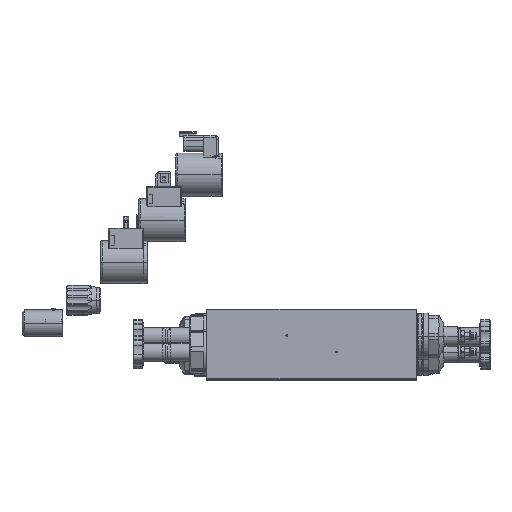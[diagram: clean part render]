
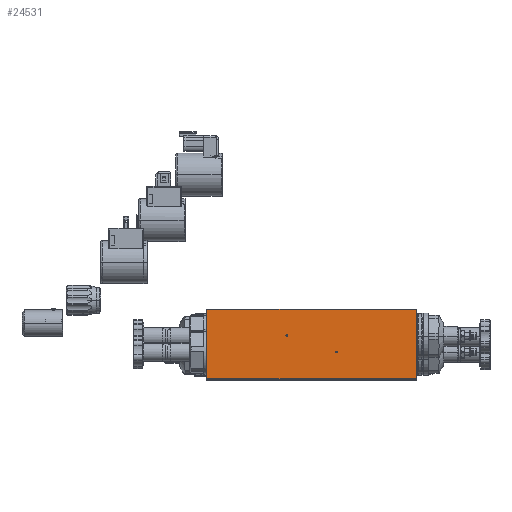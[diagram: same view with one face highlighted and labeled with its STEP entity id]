
A CAD part, top view. The second image highlights one B-rep face of the part: STEP entity #24531.
In plain terms, the highlighted planar face has unit normal (0, 0, 1).
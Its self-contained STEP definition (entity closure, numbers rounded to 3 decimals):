
#1573 = VERTEX_POINT ( 'NONE', #16084 ) ;
#2394 = EDGE_CURVE ( 'NONE', #1573, #15783, #110479, .T. ) ;
#2556 = AXIS2_PLACEMENT_3D ( 'NONE', #80270, #110546, #79828 ) ;
#3223 = CIRCLE ( 'NONE', #18579, 0.7 ) ;
#3273 = ORIENTED_EDGE ( 'NONE', *, *, #101126, .F. ) ;
#3844 = CARTESIAN_POINT ( 'NONE',  ( 180., -29.75, 30. ) ) ;
#4399 = AXIS2_PLACEMENT_3D ( 'NONE', #39276, #110799, #49566 ) ;
#5152 = CARTESIAN_POINT ( 'NONE',  ( 0., -29.75, 30. ) ) ;
#6250 = VECTOR ( 'NONE', #36355, 1000. ) ;
#6425 = CARTESIAN_POINT ( 'NONE',  ( 68.5, 7.25, 30. ) ) ;
#9473 = DIRECTION ( 'NONE',  ( 0., -1., 0. ) ) ;
#10351 = EDGE_CURVE ( 'NONE', #52988, #106946, #78535, .T. ) ;
#11476 = ORIENTED_EDGE ( 'NONE', *, *, #96370, .T. ) ;
#15783 = VERTEX_POINT ( 'NONE', #5152 ) ;
#16084 = CARTESIAN_POINT ( 'NONE',  ( 0., 29.75, 30. ) ) ;
#16787 = DIRECTION ( 'NONE',  ( 1., 0., 0. ) ) ;
#18579 = AXIS2_PLACEMENT_3D ( 'NONE', #76088, #126842, #24924 ) ;
#19033 = CARTESIAN_POINT ( 'NONE',  ( 180., -29.75, 30. ) ) ;
#22966 = FACE_OUTER_BOUND ( 'NONE', #43433, .T. ) ;
#23547 = CARTESIAN_POINT ( 'NONE',  ( 112.2, -6.75, 30. ) ) ;
#24531 = ADVANCED_FACE ( 'NONE', ( #75911, #45409, #22966 ), #44884, .F. ) ;
#24660 = CARTESIAN_POINT ( 'NONE',  ( 111.5, -6.75, 30. ) ) ;
#24924 = DIRECTION ( 'NONE',  ( 1., 0., 0. ) ) ;
#25726 = EDGE_CURVE ( 'NONE', #118275, #101423, #74029, .T. ) ;
#31701 = ORIENTED_EDGE ( 'NONE', *, *, #2394, .T. ) ;
#33511 = LINE ( 'NONE', #77230, #6250 ) ;
#36355 = DIRECTION ( 'NONE',  ( -1., 0., 0. ) ) ;
#38622 = CARTESIAN_POINT ( 'NONE',  ( 67.8, 7.25, 30. ) ) ;
#39276 = CARTESIAN_POINT ( 'NONE',  ( 111.5, -6.75, 30. ) ) ;
#43433 = EDGE_LOOP ( 'NONE', ( #31701, #67622, #84577, #11476 ) ) ;
#44884 = PLANE ( 'NONE',  #2556 ) ;
#45409 = FACE_BOUND ( 'NONE', #71382, .T. ) ;
#48415 = AXIS2_PLACEMENT_3D ( 'NONE', #24660, #64181, #69068 ) ;
#48818 = EDGE_CURVE ( 'NONE', #117335, #121098, #3223, .T. ) ;
#49566 = DIRECTION ( 'NONE',  ( 1., 0., 0. ) ) ;
#52988 = VERTEX_POINT ( 'NONE', #88981 ) ;
#54593 = VECTOR ( 'NONE', #9473, 1000. ) ;
#64181 = DIRECTION ( 'NONE',  ( 0., 0., 1. ) ) ;
#65307 = AXIS2_PLACEMENT_3D ( 'NONE', #6425, #78233, #16787 ) ;
#65354 = CIRCLE ( 'NONE', #4399, 0.7 ) ;
#67622 = ORIENTED_EDGE ( 'NONE', *, *, #106593, .F. ) ;
#69068 = DIRECTION ( 'NONE',  ( 1., 0., 0. ) ) ;
#71382 = EDGE_LOOP ( 'NONE', ( #84828, #115323 ) ) ;
#74029 = CIRCLE ( 'NONE', #48415, 0.7 ) ;
#75911 = FACE_BOUND ( 'NONE', #108952, .T. ) ;
#76088 = CARTESIAN_POINT ( 'NONE',  ( 68.5, 7.25, 30. ) ) ;
#77230 = CARTESIAN_POINT ( 'NONE',  ( 180., 29.75, 30. ) ) ;
#78233 = DIRECTION ( 'NONE',  ( 0., 0., 1. ) ) ;
#78535 = LINE ( 'NONE', #99131, #84920 ) ;
#79828 = DIRECTION ( 'NONE',  ( -1., 0., 0. ) ) ;
#80270 = CARTESIAN_POINT ( 'NONE',  ( 180., -29.75, 30. ) ) ;
#84577 = ORIENTED_EDGE ( 'NONE', *, *, #10351, .F. ) ;
#84828 = ORIENTED_EDGE ( 'NONE', *, *, #25726, .F. ) ;
#84920 = VECTOR ( 'NONE', #99399, 1000. ) ;
#84942 = ORIENTED_EDGE ( 'NONE', *, *, #48818, .F. ) ;
#86648 = CARTESIAN_POINT ( 'NONE',  ( 69.2, 7.25, 30. ) ) ;
#88981 = CARTESIAN_POINT ( 'NONE',  ( 180., 29.75, 30. ) ) ;
#89007 = VECTOR ( 'NONE', #95722, 1000. ) ;
#95722 = DIRECTION ( 'NONE',  ( -1., 0., 0. ) ) ;
#96370 = EDGE_CURVE ( 'NONE', #52988, #1573, #33511, .T. ) ;
#99131 = CARTESIAN_POINT ( 'NONE',  ( 180., -29.75, 30. ) ) ;
#99399 = DIRECTION ( 'NONE',  ( 0., -1., 0. ) ) ;
#99545 = CARTESIAN_POINT ( 'NONE',  ( 110.8, -6.75, 30. ) ) ;
#101126 = EDGE_CURVE ( 'NONE', #121098, #117335, #113190, .T. ) ;
#101423 = VERTEX_POINT ( 'NONE', #99545 ) ;
#106593 = EDGE_CURVE ( 'NONE', #106946, #15783, #116034, .T. ) ;
#106946 = VERTEX_POINT ( 'NONE', #19033 ) ;
#108952 = EDGE_LOOP ( 'NONE', ( #3273, #84942 ) ) ;
#110479 = LINE ( 'NONE', #122648, #54593 ) ;
#110546 = DIRECTION ( 'NONE',  ( 0., 0., -1. ) ) ;
#110799 = DIRECTION ( 'NONE',  ( 0., 0., 1. ) ) ;
#113190 = CIRCLE ( 'NONE', #65307, 0.7 ) ;
#115323 = ORIENTED_EDGE ( 'NONE', *, *, #126550, .F. ) ;
#116034 = LINE ( 'NONE', #3844, #89007 ) ;
#117335 = VERTEX_POINT ( 'NONE', #38622 ) ;
#118275 = VERTEX_POINT ( 'NONE', #23547 ) ;
#121098 = VERTEX_POINT ( 'NONE', #86648 ) ;
#122648 = CARTESIAN_POINT ( 'NONE',  ( 0., -29.75, 30. ) ) ;
#126550 = EDGE_CURVE ( 'NONE', #101423, #118275, #65354, .T. ) ;
#126842 = DIRECTION ( 'NONE',  ( 0., 0., 1. ) ) ;
